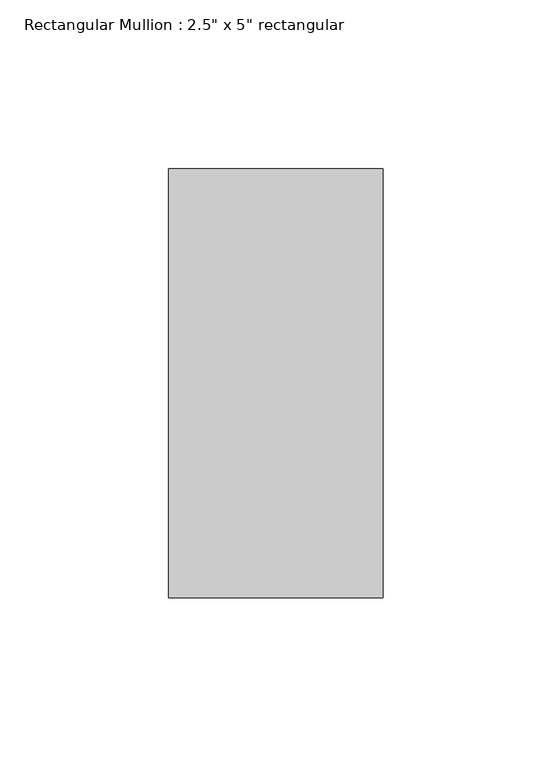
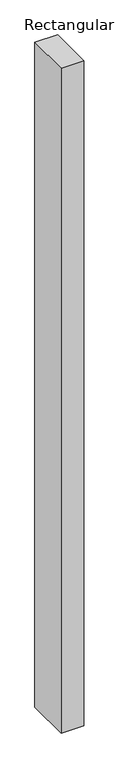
"""IFC4 building model written with IfcOpenShell, lengths in millimetres: member geometry."""

from ifc_helpers import new_model, si_unit, frame, origin, place, context, project, spatial, polyline, outline, extrude, source, transform, mapped, element, save


def member_1829b35c(model_context):
    return source(origin(), model_context, "Body", "SweptSolid", [
        extrude(outline(polyline([(31.75, 63.5), (31.75, -63.5), (-31.75, -63.5), (-31.75, 63.5), (31.75, 63.5)])), frame((0.0, 0.0, -1972.359504), z_axis=(0.0, 0.0, 1.0), x_axis=(1.0, 0.0, 0.0)), (0.0, 0.0, 1.0), 1972.359504),
    ])


if __name__ == "__main__":
    model = new_model("IFC4")
    model_context = context("Model", 3, world=origin())
    ifc_project = project(units=[si_unit("LENGTHUNIT", "METRE", prefix="MILLI")], contexts=[model_context])
    site = spatial("IfcSite", under=ifc_project)
    building = spatial("IfcBuilding", under=site)
    placement = place(None, origin())
    member_shape = member_1829b35c(model_context)
    element("IfcMember", 1, ObjectType="Rectangular Mullion : 2.5\" x 5\" rectangular", at=placement, inside=building, context=model_context, shape_type="MappedRepresentation", body=[
        mapped(member_shape, transform((0.0, 0.0, 0.0), x_axis=(1.0, 0.0, 0.0), y_axis=(0.0, 1.0, 0.0), z_axis=(0.0, 0.0, 1.0))),
    ])
    save(model, "model.ifc")
